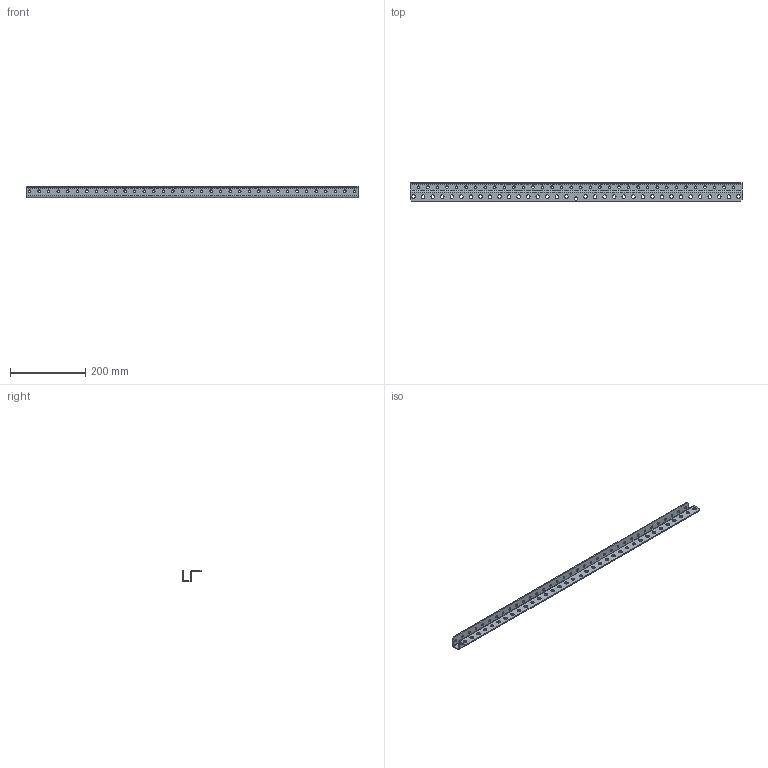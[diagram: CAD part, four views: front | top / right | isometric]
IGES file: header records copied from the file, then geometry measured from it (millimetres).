
Global section: file name: No Iges File Name specified; native system: AutoDesk Inventor R5.0; preprocessor: AutoDesk Inventor Iges Exporter R5.0; author: No Author specified; organization: No Organization specified; date: 20070111.212513; units: inch
Bounding box: 882.65 x 50.09 x 30.18 mm (x, y, z)
Surface area: 180680.8 mm2 (no closed solid volume)
Topology: 0 solids, 0 shells, 161 faces, 919 edges, 780 vertices
Faces by surface type: bspline 139, plane 16, revolution 6
